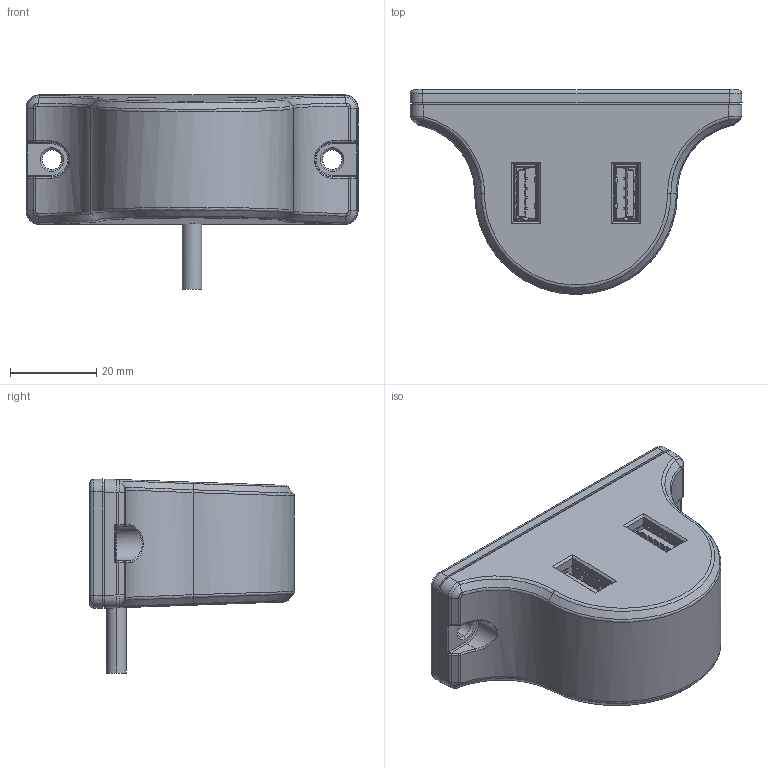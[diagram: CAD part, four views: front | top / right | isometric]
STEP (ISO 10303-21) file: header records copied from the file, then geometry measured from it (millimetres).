
FILE_DESCRIPTION (( 'STEP AP203' ), '1' );
FILE_NAME ('TFA3.STEP', '2017-05-18T04:33:47', ( '' ), ( '' ), 'SwSTEP 2.0', 'SolidWorks 2015', '' );
FILE_SCHEMA (( 'CONFIG_CONTROL_DESIGN' ));
Products named in the file (1): TFA3
Bounding box: 77 x 47.49 x 45 mm (x, y, z)
Volume: 65041.3 mm3; surface area: 20373.5 mm2
Topology: 16 solids, 16 shells, 1853 faces, 4892 edges, 3079 vertices
Faces by surface type: plane 1173, cylinder 510, bspline 140, torus 22, cone 8
Entity records: 63889 total; most frequent: CARTESIAN_POINT 18569, ORIENTED_EDGE 9776, DIRECTION 8759, EDGE_CURVE 4888, VECTOR 3669, LINE 3669, VERTEX_POINT 3079, AXIS2_PLACEMENT_3D 2545
